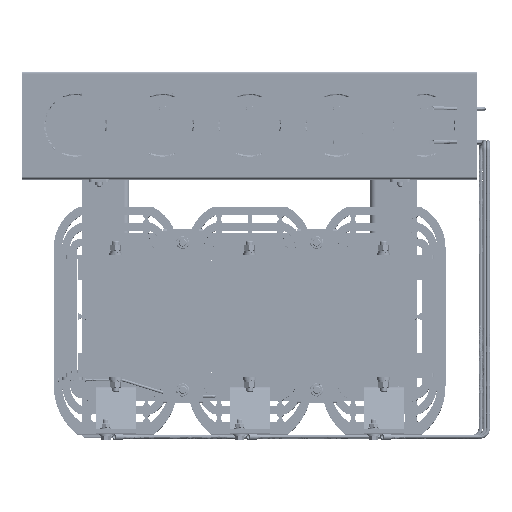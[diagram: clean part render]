
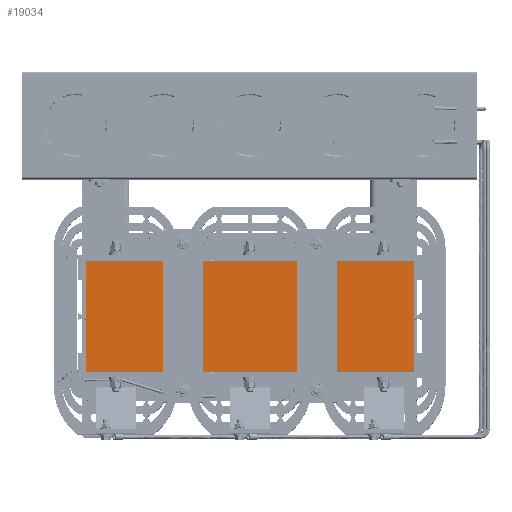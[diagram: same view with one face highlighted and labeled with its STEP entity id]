
A CAD part, top view. The second image highlights one B-rep face of the part: STEP entity #19034.
In plain terms, the highlighted planar face has unit normal (0, 0, 1).
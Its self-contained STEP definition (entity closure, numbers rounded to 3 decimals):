
#19034=ADVANCED_FACE('',(#50937),#50939,.T.);
#50937=FACE_BOUND('',#50938,.T.);
#50938=EDGE_LOOP('',(#81971,#81972,#81973,#81974));
#50939=PLANE('',#50940);
#50940=AXIS2_PLACEMENT_3D('',#50941,#50942,#50943);
#50941=CARTESIAN_POINT('',(235.,228.,540.));
#50942=DIRECTION('',(0.,0.,1.));
#50943=DIRECTION('',(1.,0.,0.));
#81971=ORIENTED_EDGE('',*,*,#96525,.F.);
#81972=ORIENTED_EDGE('',*,*,#96506,.T.);
#81973=ORIENTED_EDGE('',*,*,#96530,.F.);
#81974=ORIENTED_EDGE('',*,*,#96531,.T.);
#96506=EDGE_CURVE('',#106868,#106866,#106869,.T.);
#96525=EDGE_CURVE('',#106868,#106901,#106902,.T.);
#96530=EDGE_CURVE('',#106907,#106866,#106909,.T.);
#96531=EDGE_CURVE('',#106907,#106901,#106910,.T.);
#106866=VERTEX_POINT('',#147650);
#106868=VERTEX_POINT('',#147654);
#106869=LINE('',#147655,#147656);
#106901=VERTEX_POINT('',#147725);
#106902=LINE('',#147726,#147727);
#106907=VERTEX_POINT('',#147739);
#106909=LINE('',#147743,#147744);
#106910=LINE('',#147746,#147747);
#147650=CARTESIAN_POINT('',(-245.,208.,540.));
#147654=CARTESIAN_POINT('',(245.,208.,540.));
#147655=CARTESIAN_POINT('',(245.,208.,540.));
#147656=VECTOR('',#147657,1.);
#147657=DIRECTION('',(-1.,0.,0.));
#147725=CARTESIAN_POINT('',(245.,42.,540.));
#147726=CARTESIAN_POINT('',(245.,208.,540.));
#147727=VECTOR('',#147728,1.);
#147728=DIRECTION('',(0.,-1.,0.));
#147739=CARTESIAN_POINT('',(-245.,42.,540.));
#147743=CARTESIAN_POINT('',(-245.,42.,540.));
#147744=VECTOR('',#147745,1.);
#147745=DIRECTION('',(0.,1.,0.));
#147746=CARTESIAN_POINT('',(-245.,42.,540.));
#147747=VECTOR('',#147748,1.);
#147748=DIRECTION('',(1.,0.,0.));
